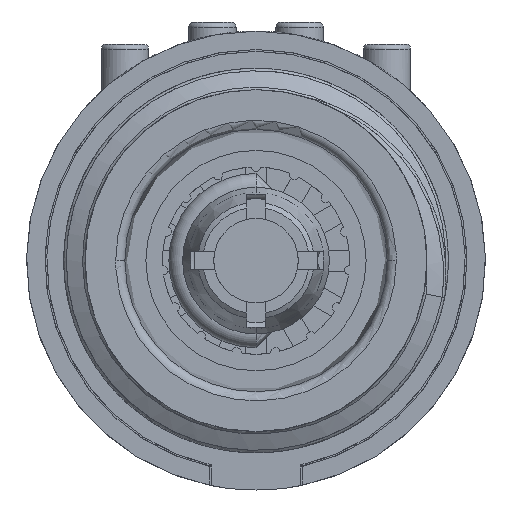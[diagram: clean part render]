
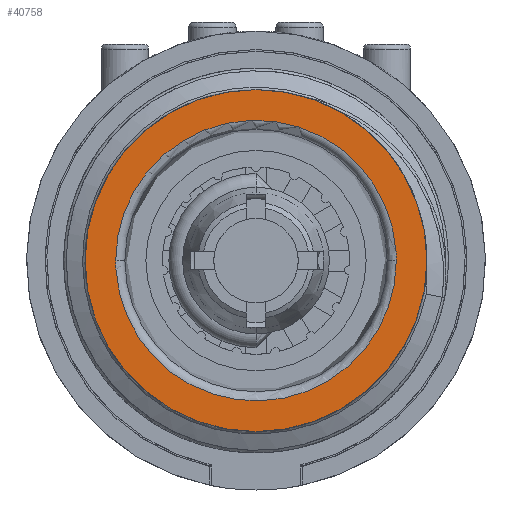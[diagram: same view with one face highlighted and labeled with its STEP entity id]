
A CAD part, front view. The second image highlights one B-rep face of the part: STEP entity #40758.
In plain terms, the highlighted planar face has unit normal (0, -1, 0) as drawn and (1, 0, 0) by its records, which use the part's own axes.
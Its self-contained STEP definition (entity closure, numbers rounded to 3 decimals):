
#37046=CARTESIAN_POINT('',(103.,0.,0.));
#37047=DIRECTION('',(-1.,0.,0.));
#37048=DIRECTION('',(0.,1.,0.));
#37049=AXIS2_PLACEMENT_3D('',#37046,#37047,#37048);
#37051=CARTESIAN_POINT('',(103.,0.,0.));
#37052=DIRECTION('',(-1.,0.,0.));
#37053=DIRECTION('',(0.,-1.,0.));
#37054=AXIS2_PLACEMENT_3D('',#37051,#37052,#37053);
#37056=CARTESIAN_POINT('',(103.,0.,0.));
#37057=DIRECTION('',(1.,0.,0.));
#37058=DIRECTION('',(0.,0.,1.));
#37059=AXIS2_PLACEMENT_3D('',#37056,#37057,#37058);
#37061=CARTESIAN_POINT('',(103.,0.,0.));
#37062=DIRECTION('',(1.,0.,0.));
#37063=DIRECTION('',(0.,-0.063,0.998));
#37064=AXIS2_PLACEMENT_3D('',#37061,#37062,#37063);
#37066=CARTESIAN_POINT('',(103.,0.,0.));
#37067=DIRECTION('',(1.,0.,0.));
#37068=DIRECTION('',(0.,0.,-1.));
#37069=AXIS2_PLACEMENT_3D('',#37066,#37067,#37068);
#37071=CARTESIAN_POINT('',(103.,0.,0.));
#37072=DIRECTION('',(1.,0.,0.));
#37073=DIRECTION('',(0.,0.063,-0.998));
#37074=AXIS2_PLACEMENT_3D('',#37071,#37072,#37073);
#40328=CARTESIAN_POINT('',(103.,-0.482,7.63));
#40329=CARTESIAN_POINT('',(103.,0.,-7.646));
#40330=VERTEX_POINT('',#40328);
#40331=VERTEX_POINT('',#40329);
#40332=CARTESIAN_POINT('',(103.,0.,7.646));
#40333=VERTEX_POINT('',#40332);
#40334=CARTESIAN_POINT('',(103.,9.316,0.));
#40335=CARTESIAN_POINT('',(103.,-9.316,0.));
#40336=VERTEX_POINT('',#40334);
#40337=VERTEX_POINT('',#40335);
#40338=CARTESIAN_POINT('',(103.,0.482,-7.63));
#40339=VERTEX_POINT('',#40338);
#40739=CARTESIAN_POINT('',(103.,0.,0.));
#40740=DIRECTION('',(-1.,0.,0.));
#40741=DIRECTION('',(0.,-1.,0.));
#40742=AXIS2_PLACEMENT_3D('',#40739,#40740,#40741);
#40743=PLANE('',#40742);
#40745=ORIENTED_EDGE('',*,*,#40744,.T.);
#40747=ORIENTED_EDGE('',*,*,#40746,.T.);
#40748=EDGE_LOOP('',(#40745,#40747));
#40749=FACE_OUTER_BOUND('',#40748,.F.);
#40750=ORIENTED_EDGE('',*,*,#40729,.T.);
#40751=ORIENTED_EDGE('',*,*,#40727,.T.);
#40753=ORIENTED_EDGE('',*,*,#40752,.T.);
#40755=ORIENTED_EDGE('',*,*,#40754,.T.);
#40756=EDGE_LOOP('',(#40750,#40751,#40753,#40755));
#40757=FACE_BOUND('',#40756,.F.);
#40758=ADVANCED_FACE('',(#40749,#40757),#40743,.F.);
#37050=CIRCLE('',#37049,9.316);
#37055=CIRCLE('',#37054,9.316);
#37060=CIRCLE('',#37059,7.646);
#37065=CIRCLE('',#37064,7.646);
#37070=CIRCLE('',#37069,7.646);
#37075=CIRCLE('',#37074,7.646);
#40727=EDGE_CURVE('',#40330,#40331,#37065,.T.);
#40729=EDGE_CURVE('',#40333,#40330,#37060,.T.);
#40744=EDGE_CURVE('',#40336,#40337,#37050,.T.);
#40746=EDGE_CURVE('',#40337,#40336,#37055,.T.);
#40752=EDGE_CURVE('',#40331,#40339,#37070,.T.);
#40754=EDGE_CURVE('',#40339,#40333,#37075,.T.);
